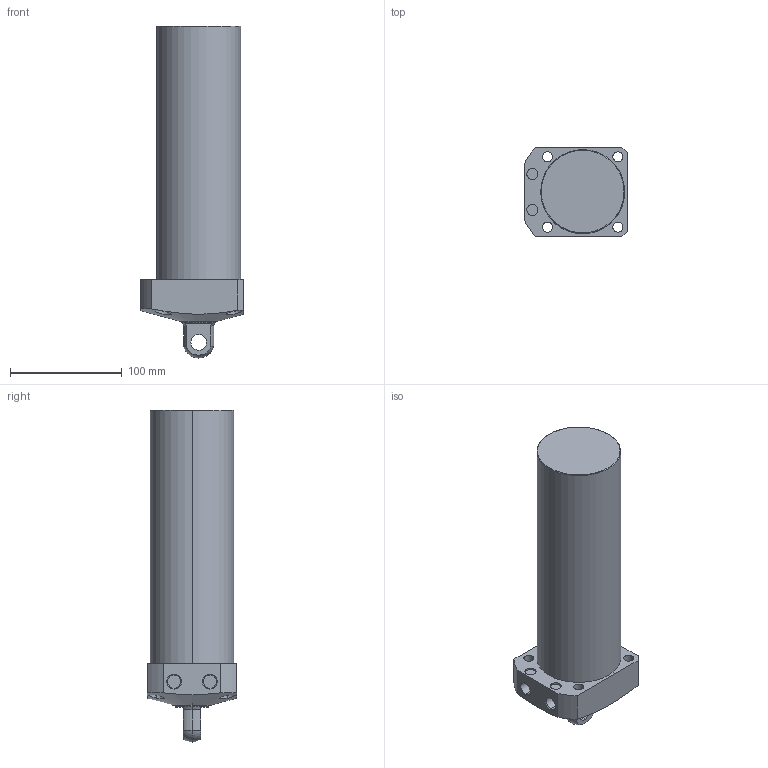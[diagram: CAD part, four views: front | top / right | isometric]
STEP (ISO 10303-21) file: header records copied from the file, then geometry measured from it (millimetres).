
FILE_DESCRIPTION (( 'STEP AP203' ), '1' );
FILE_NAME ('CLL-075CP-190.STEP', '2019-12-25T08:06:37', ( '' ), ( '' ), 'SwSTEP 2.0', 'SolidWorks 2015', '' );
FILE_SCHEMA (( 'CONFIG_CONTROL_DESIGN' ));
Length unit declared in the file: millimetre
Products named in the file (1): CLL-075CP-190
Bounding box: 92 x 80 x 297 mm (x, y, z)
Volume: 1230297.2 mm3; surface area: 85389.3 mm2
Topology: 1 solids, 1 shells, 68 faces, 159 edges, 103 vertices
Faces by surface type: cylinder 35, plane 21, cone 8, sphere 2, torus 2
Entity records: 2459 total; most frequent: CARTESIAN_POINT 762, DIRECTION 357, ORIENTED_EDGE 318, EDGE_CURVE 159, AXIS2_PLACEMENT_3D 149, VERTEX_POINT 103, EDGE_LOOP 88, CIRCLE 80
